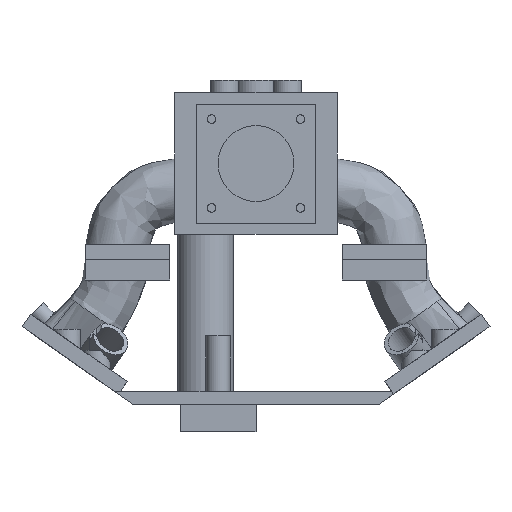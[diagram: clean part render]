
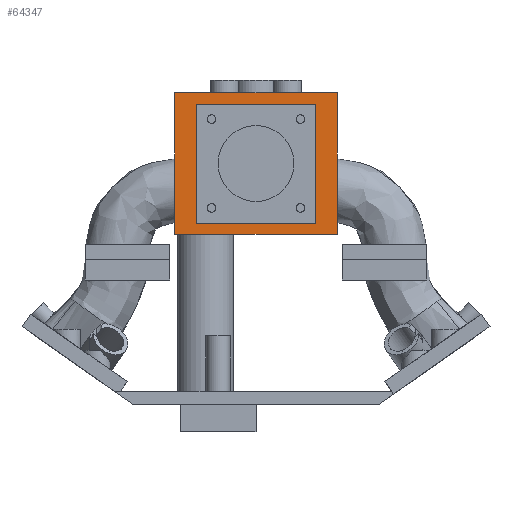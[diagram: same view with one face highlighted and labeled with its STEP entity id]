
A CAD part, left-side view. The second image highlights one B-rep face of the part: STEP entity #64347.
In plain terms, the highlighted planar face has unit normal (-1, 0, 0).
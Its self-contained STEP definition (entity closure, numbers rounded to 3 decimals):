
#64347 = ADVANCED_FACE('',(#64348,#64467),#64362,.F.);
#64348 = FACE_BOUND('',#64349,.F.);
#64349 = EDGE_LOOP('',(#64350,#64385,#64413,#64441));
#64350 = ORIENTED_EDGE('',*,*,#64351,.F.);
#64351 = EDGE_CURVE('',#64352,#64354,#64356,.T.);
#64352 = VERTEX_POINT('',#64353);
#64353 = CARTESIAN_POINT('',(-16.5,-64.,440.));
#64354 = VERTEX_POINT('',#64355);
#64355 = CARTESIAN_POINT('',(-16.5,-64.,551.907));
#64356 = SURFACE_CURVE('',#64357,(#64361,#64373),.PCURVE_S1.);
#64357 = LINE('',#64358,#64359);
#64358 = CARTESIAN_POINT('',(-16.5,-64.,440.));
#64359 = VECTOR('',#64360,1.);
#64360 = DIRECTION('',(0.,0.,1.));
#64361 = PCURVE('',#64362,#64367);
#64362 = PLANE('',#64363);
#64363 = AXIS2_PLACEMENT_3D('',#64364,#64365,#64366);
#64364 = CARTESIAN_POINT('',(-16.5,-64.,440.));
#64365 = DIRECTION('',(1.,0.,-0.));
#64366 = DIRECTION('',(0.,0.,1.));
#64367 = DEFINITIONAL_REPRESENTATION('',(#64368),#64372);
#64368 = LINE('',#64369,#64370);
#64369 = CARTESIAN_POINT('',(0.,0.));
#64370 = VECTOR('',#64371,1.);
#64371 = DIRECTION('',(1.,0.));
#64372 = ( GEOMETRIC_REPRESENTATION_CONTEXT(2) 
PARAMETRIC_REPRESENTATION_CONTEXT() REPRESENTATION_CONTEXT('2D SPACE',''
  ) );
#64373 = PCURVE('',#64374,#64379);
#64374 = PLANE('',#64375);
#64375 = AXIS2_PLACEMENT_3D('',#64376,#64377,#64378);
#64376 = CARTESIAN_POINT('',(-16.5,-64.,440.));
#64377 = DIRECTION('',(-0.,1.,0.));
#64378 = DIRECTION('',(0.,0.,1.));
#64379 = DEFINITIONAL_REPRESENTATION('',(#64380),#64384);
#64380 = LINE('',#64381,#64382);
#64381 = CARTESIAN_POINT('',(0.,0.));
#64382 = VECTOR('',#64383,1.);
#64383 = DIRECTION('',(1.,0.));
#64384 = ( GEOMETRIC_REPRESENTATION_CONTEXT(2) 
PARAMETRIC_REPRESENTATION_CONTEXT() REPRESENTATION_CONTEXT('2D SPACE',''
  ) );
#64385 = ORIENTED_EDGE('',*,*,#64386,.T.);
#64386 = EDGE_CURVE('',#64352,#64387,#64389,.T.);
#64387 = VERTEX_POINT('',#64388);
#64388 = CARTESIAN_POINT('',(-16.5,64.,440.));
#64389 = SURFACE_CURVE('',#64390,(#64394,#64401),.PCURVE_S1.);
#64390 = LINE('',#64391,#64392);
#64391 = CARTESIAN_POINT('',(-16.5,-64.,440.));
#64392 = VECTOR('',#64393,1.);
#64393 = DIRECTION('',(-0.,1.,0.));
#64394 = PCURVE('',#64362,#64395);
#64395 = DEFINITIONAL_REPRESENTATION('',(#64396),#64400);
#64396 = LINE('',#64397,#64398);
#64397 = CARTESIAN_POINT('',(0.,0.));
#64398 = VECTOR('',#64399,1.);
#64399 = DIRECTION('',(0.,-1.));
#64400 = ( GEOMETRIC_REPRESENTATION_CONTEXT(2) 
PARAMETRIC_REPRESENTATION_CONTEXT() REPRESENTATION_CONTEXT('2D SPACE',''
  ) );
#64401 = PCURVE('',#64402,#64407);
#64402 = PLANE('',#64403);
#64403 = AXIS2_PLACEMENT_3D('',#64404,#64405,#64406);
#64404 = CARTESIAN_POINT('',(-16.5,-64.,440.));
#64405 = DIRECTION('',(0.,0.,1.));
#64406 = DIRECTION('',(1.,0.,-0.));
#64407 = DEFINITIONAL_REPRESENTATION('',(#64408),#64412);
#64408 = LINE('',#64409,#64410);
#64409 = CARTESIAN_POINT('',(0.,0.));
#64410 = VECTOR('',#64411,1.);
#64411 = DIRECTION('',(0.,1.));
#64412 = ( GEOMETRIC_REPRESENTATION_CONTEXT(2) 
PARAMETRIC_REPRESENTATION_CONTEXT() REPRESENTATION_CONTEXT('2D SPACE',''
  ) );
#64413 = ORIENTED_EDGE('',*,*,#64414,.T.);
#64414 = EDGE_CURVE('',#64387,#64415,#64417,.T.);
#64415 = VERTEX_POINT('',#64416);
#64416 = CARTESIAN_POINT('',(-16.5,64.,551.907));
#64417 = SURFACE_CURVE('',#64418,(#64422,#64429),.PCURVE_S1.);
#64418 = LINE('',#64419,#64420);
#64419 = CARTESIAN_POINT('',(-16.5,64.,440.));
#64420 = VECTOR('',#64421,1.);
#64421 = DIRECTION('',(0.,0.,1.));
#64422 = PCURVE('',#64362,#64423);
#64423 = DEFINITIONAL_REPRESENTATION('',(#64424),#64428);
#64424 = LINE('',#64425,#64426);
#64425 = CARTESIAN_POINT('',(0.,-128.));
#64426 = VECTOR('',#64427,1.);
#64427 = DIRECTION('',(1.,0.));
#64428 = ( GEOMETRIC_REPRESENTATION_CONTEXT(2) 
PARAMETRIC_REPRESENTATION_CONTEXT() REPRESENTATION_CONTEXT('2D SPACE',''
  ) );
#64429 = PCURVE('',#64430,#64435);
#64430 = PLANE('',#64431);
#64431 = AXIS2_PLACEMENT_3D('',#64432,#64433,#64434);
#64432 = CARTESIAN_POINT('',(-16.5,64.,440.));
#64433 = DIRECTION('',(-0.,1.,0.));
#64434 = DIRECTION('',(0.,0.,1.));
#64435 = DEFINITIONAL_REPRESENTATION('',(#64436),#64440);
#64436 = LINE('',#64437,#64438);
#64437 = CARTESIAN_POINT('',(0.,0.));
#64438 = VECTOR('',#64439,1.);
#64439 = DIRECTION('',(1.,0.));
#64440 = ( GEOMETRIC_REPRESENTATION_CONTEXT(2) 
PARAMETRIC_REPRESENTATION_CONTEXT() REPRESENTATION_CONTEXT('2D SPACE',''
  ) );
#64441 = ORIENTED_EDGE('',*,*,#64442,.F.);
#64442 = EDGE_CURVE('',#64354,#64415,#64443,.T.);
#64443 = SURFACE_CURVE('',#64444,(#64448,#64455),.PCURVE_S1.);
#64444 = LINE('',#64445,#64446);
#64445 = CARTESIAN_POINT('',(-16.5,-64.,551.907));
#64446 = VECTOR('',#64447,1.);
#64447 = DIRECTION('',(-0.,1.,0.));
#64448 = PCURVE('',#64362,#64449);
#64449 = DEFINITIONAL_REPRESENTATION('',(#64450),#64454);
#64450 = LINE('',#64451,#64452);
#64451 = CARTESIAN_POINT('',(111.907,0.));
#64452 = VECTOR('',#64453,1.);
#64453 = DIRECTION('',(0.,-1.));
#64454 = ( GEOMETRIC_REPRESENTATION_CONTEXT(2) 
PARAMETRIC_REPRESENTATION_CONTEXT() REPRESENTATION_CONTEXT('2D SPACE',''
  ) );
#64455 = PCURVE('',#64456,#64461);
#64456 = PLANE('',#64457);
#64457 = AXIS2_PLACEMENT_3D('',#64458,#64459,#64460);
#64458 = CARTESIAN_POINT('',(-16.5,-64.,551.907));
#64459 = DIRECTION('',(0.,0.,1.));
#64460 = DIRECTION('',(1.,0.,-0.));
#64461 = DEFINITIONAL_REPRESENTATION('',(#64462),#64466);
#64462 = LINE('',#64463,#64464);
#64463 = CARTESIAN_POINT('',(0.,0.));
#64464 = VECTOR('',#64465,1.);
#64465 = DIRECTION('',(0.,1.));
#64466 = ( GEOMETRIC_REPRESENTATION_CONTEXT(2) 
PARAMETRIC_REPRESENTATION_CONTEXT() REPRESENTATION_CONTEXT('2D SPACE',''
  ) );
#64467 = FACE_BOUND('',#64468,.F.);
#64468 = EDGE_LOOP('',(#64469,#64499,#64527,#64555));
#64469 = ORIENTED_EDGE('',*,*,#64470,.F.);
#64470 = EDGE_CURVE('',#64471,#64473,#64475,.T.);
#64471 = VERTEX_POINT('',#64472);
#64472 = CARTESIAN_POINT('',(-16.5,-47.,448.953));
#64473 = VERTEX_POINT('',#64474);
#64474 = CARTESIAN_POINT('',(-16.5,47.,448.953));
#64475 = SURFACE_CURVE('',#64476,(#64480,#64487),.PCURVE_S1.);
#64476 = LINE('',#64477,#64478);
#64477 = CARTESIAN_POINT('',(-16.5,-47.,448.953));
#64478 = VECTOR('',#64479,1.);
#64479 = DIRECTION('',(0.,1.,0.));
#64480 = PCURVE('',#64362,#64481);
#64481 = DEFINITIONAL_REPRESENTATION('',(#64482),#64486);
#64482 = LINE('',#64483,#64484);
#64483 = CARTESIAN_POINT('',(8.953,-17.));
#64484 = VECTOR('',#64485,1.);
#64485 = DIRECTION('',(0.,-1.));
#64486 = ( GEOMETRIC_REPRESENTATION_CONTEXT(2) 
PARAMETRIC_REPRESENTATION_CONTEXT() REPRESENTATION_CONTEXT('2D SPACE',''
  ) );
#64487 = PCURVE('',#64488,#64493);
#64488 = PLANE('',#64489);
#64489 = AXIS2_PLACEMENT_3D('',#64490,#64491,#64492);
#64490 = CARTESIAN_POINT('',(-16.5,-47.,448.953));
#64491 = DIRECTION('',(0.,0.,-1.));
#64492 = DIRECTION('',(-1.,0.,0.));
#64493 = DEFINITIONAL_REPRESENTATION('',(#64494),#64498);
#64494 = LINE('',#64495,#64496);
#64495 = CARTESIAN_POINT('',(0.,0.));
#64496 = VECTOR('',#64497,1.);
#64497 = DIRECTION('',(0.,1.));
#64498 = ( GEOMETRIC_REPRESENTATION_CONTEXT(2) 
PARAMETRIC_REPRESENTATION_CONTEXT() REPRESENTATION_CONTEXT('2D SPACE',''
  ) );
#64499 = ORIENTED_EDGE('',*,*,#64500,.F.);
#64500 = EDGE_CURVE('',#64501,#64471,#64503,.T.);
#64501 = VERTEX_POINT('',#64502);
#64502 = CARTESIAN_POINT('',(-16.5,-47.,542.953));
#64503 = SURFACE_CURVE('',#64504,(#64508,#64515),.PCURVE_S1.);
#64504 = LINE('',#64505,#64506);
#64505 = CARTESIAN_POINT('',(-16.5,-47.,542.953));
#64506 = VECTOR('',#64507,1.);
#64507 = DIRECTION('',(0.,0.,-1.));
#64508 = PCURVE('',#64362,#64509);
#64509 = DEFINITIONAL_REPRESENTATION('',(#64510),#64514);
#64510 = LINE('',#64511,#64512);
#64511 = CARTESIAN_POINT('',(102.953,-17.));
#64512 = VECTOR('',#64513,1.);
#64513 = DIRECTION('',(-1.,0.));
#64514 = ( GEOMETRIC_REPRESENTATION_CONTEXT(2) 
PARAMETRIC_REPRESENTATION_CONTEXT() REPRESENTATION_CONTEXT('2D SPACE',''
  ) );
#64515 = PCURVE('',#64516,#64521);
#64516 = PLANE('',#64517);
#64517 = AXIS2_PLACEMENT_3D('',#64518,#64519,#64520);
#64518 = CARTESIAN_POINT('',(-16.5,-47.,542.953));
#64519 = DIRECTION('',(0.,1.,0.));
#64520 = DIRECTION('',(-1.,0.,0.));
#64521 = DEFINITIONAL_REPRESENTATION('',(#64522),#64526);
#64522 = LINE('',#64523,#64524);
#64523 = CARTESIAN_POINT('',(0.,0.));
#64524 = VECTOR('',#64525,1.);
#64525 = DIRECTION('',(0.,-1.));
#64526 = ( GEOMETRIC_REPRESENTATION_CONTEXT(2) 
PARAMETRIC_REPRESENTATION_CONTEXT() REPRESENTATION_CONTEXT('2D SPACE',''
  ) );
#64527 = ORIENTED_EDGE('',*,*,#64528,.T.);
#64528 = EDGE_CURVE('',#64501,#64529,#64531,.T.);
#64529 = VERTEX_POINT('',#64530);
#64530 = CARTESIAN_POINT('',(-16.5,47.,542.953));
#64531 = SURFACE_CURVE('',#64532,(#64536,#64543),.PCURVE_S1.);
#64532 = LINE('',#64533,#64534);
#64533 = CARTESIAN_POINT('',(-16.5,-47.,542.953));
#64534 = VECTOR('',#64535,1.);
#64535 = DIRECTION('',(0.,1.,0.));
#64536 = PCURVE('',#64362,#64537);
#64537 = DEFINITIONAL_REPRESENTATION('',(#64538),#64542);
#64538 = LINE('',#64539,#64540);
#64539 = CARTESIAN_POINT('',(102.953,-17.));
#64540 = VECTOR('',#64541,1.);
#64541 = DIRECTION('',(0.,-1.));
#64542 = ( GEOMETRIC_REPRESENTATION_CONTEXT(2) 
PARAMETRIC_REPRESENTATION_CONTEXT() REPRESENTATION_CONTEXT('2D SPACE',''
  ) );
#64543 = PCURVE('',#64544,#64549);
#64544 = PLANE('',#64545);
#64545 = AXIS2_PLACEMENT_3D('',#64546,#64547,#64548);
#64546 = CARTESIAN_POINT('',(-16.5,-47.,542.953));
#64547 = DIRECTION('',(0.,0.,-1.));
#64548 = DIRECTION('',(-1.,0.,0.));
#64549 = DEFINITIONAL_REPRESENTATION('',(#64550),#64554);
#64550 = LINE('',#64551,#64552);
#64551 = CARTESIAN_POINT('',(0.,0.));
#64552 = VECTOR('',#64553,1.);
#64553 = DIRECTION('',(0.,1.));
#64554 = ( GEOMETRIC_REPRESENTATION_CONTEXT(2) 
PARAMETRIC_REPRESENTATION_CONTEXT() REPRESENTATION_CONTEXT('2D SPACE',''
  ) );
#64555 = ORIENTED_EDGE('',*,*,#64556,.T.);
#64556 = EDGE_CURVE('',#64529,#64473,#64557,.T.);
#64557 = SURFACE_CURVE('',#64558,(#64562,#64569),.PCURVE_S1.);
#64558 = LINE('',#64559,#64560);
#64559 = CARTESIAN_POINT('',(-16.5,47.,542.953));
#64560 = VECTOR('',#64561,1.);
#64561 = DIRECTION('',(0.,0.,-1.));
#64562 = PCURVE('',#64362,#64563);
#64563 = DEFINITIONAL_REPRESENTATION('',(#64564),#64568);
#64564 = LINE('',#64565,#64566);
#64565 = CARTESIAN_POINT('',(102.953,-111.));
#64566 = VECTOR('',#64567,1.);
#64567 = DIRECTION('',(-1.,0.));
#64568 = ( GEOMETRIC_REPRESENTATION_CONTEXT(2) 
PARAMETRIC_REPRESENTATION_CONTEXT() REPRESENTATION_CONTEXT('2D SPACE',''
  ) );
#64569 = PCURVE('',#64570,#64575);
#64570 = PLANE('',#64571);
#64571 = AXIS2_PLACEMENT_3D('',#64572,#64573,#64574);
#64572 = CARTESIAN_POINT('',(-16.5,47.,542.953));
#64573 = DIRECTION('',(0.,1.,0.));
#64574 = DIRECTION('',(-1.,0.,0.));
#64575 = DEFINITIONAL_REPRESENTATION('',(#64576),#64580);
#64576 = LINE('',#64577,#64578);
#64577 = CARTESIAN_POINT('',(0.,0.));
#64578 = VECTOR('',#64579,1.);
#64579 = DIRECTION('',(0.,-1.));
#64580 = ( GEOMETRIC_REPRESENTATION_CONTEXT(2) 
PARAMETRIC_REPRESENTATION_CONTEXT() REPRESENTATION_CONTEXT('2D SPACE',''
  ) );
